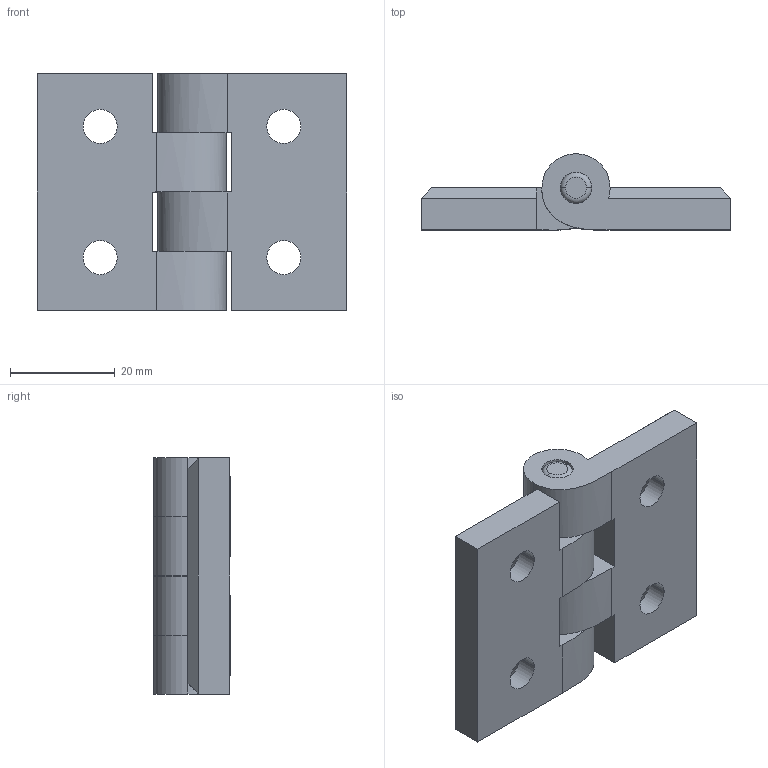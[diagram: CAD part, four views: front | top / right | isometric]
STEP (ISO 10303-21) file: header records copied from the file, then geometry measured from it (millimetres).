
FILE_DESCRIPTION (( 'STEP AP203' ), '1' );
FILE_NAME ('204-CE-HG-35.STEP', '2015-07-09T09:24:40', ( '' ), ( '' ), 'SwSTEP 2.0', 'SolidWorks 2013', '' );
FILE_SCHEMA (( 'CONFIG_CONTROL_DESIGN' ));
Length unit declared in the file: millimetre
Products named in the file (1): 204-CE-HG-35
Bounding box: 59 x 14.54 x 45 mm (x, y, z)
Surface area: 9186.9 mm2 (no closed solid volume)
Topology: 0 solids, 4 shells, 62 faces, 170 edges, 114 vertices
Faces by surface type: plane 28, cylinder 18, cone 8, bspline 4, torus 4
Entity records: 2148 total; most frequent: CARTESIAN_POINT 437, DIRECTION 348, ORIENTED_EDGE 328, EDGE_CURVE 170, AXIS2_PLACEMENT_3D 129, VERTEX_POINT 114, LINE 90, VECTOR 90
